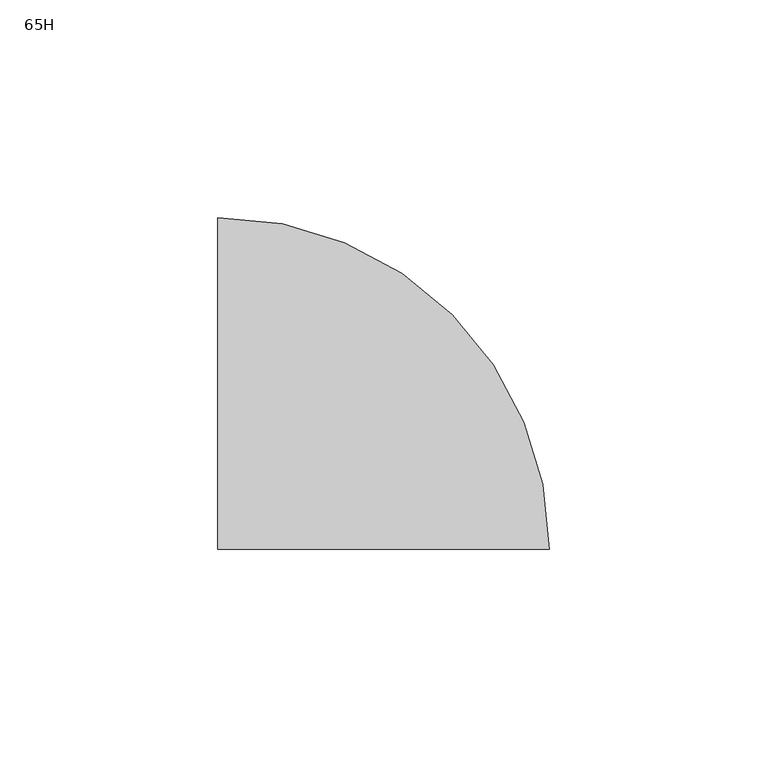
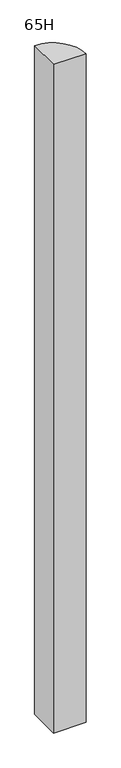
"""IFC4 building model written with IfcOpenShell, lengths in millimetres: furniture geometry, Steelcase - Montage - Junction - L Radius - Same-Height : 65H."""

from ifc_helpers import new_model, si_unit, point, frame, frame_2d, origin, place, context, project, spatial, polyline, circle_curve, trimmed, segment, composite_curve, outline, extrude, source, transform, mapped, element, save


def furniture_65h_a30b0fb3(model_context):
    return source(origin(), model_context, "Body", "SweptSolid", [
        extrude(outline(composite_curve([segment(trimmed(circle_curve(frame_2d((457.2, -38.1000006)), 76.2000006), [point((457.2, 38.1))], [point((533.4000006, -38.1000006))], False, "CARTESIAN"), True, "CONTINUOUS"), segment(polyline([(533.4000006, -38.1000006), (457.2, -38.1000006), (457.2, 38.1)]), True, "CONTINUOUS")], self_intersect=False)), frame((0.0, 0.0, 4.064), z_axis=(0.0, 0.0, 1.0), x_axis=(1.0, 0.0, 0.0)), (0.0, 0.0, 1.0), 1656.461),
    ])


if __name__ == "__main__":
    model = new_model("IFC4")
    model_context = context("Model", 3, world=origin())
    ifc_project = project(units=[si_unit("LENGTHUNIT", "METRE", prefix="MILLI")], contexts=[model_context])
    site = spatial("IfcSite", under=ifc_project)
    building = spatial("IfcBuilding", under=site)
    placement = place(None, origin())
    furniture_65h_shape = furniture_65h_a30b0fb3(model_context)
    element("IfcFurniture", 1, ObjectType="Steelcase - Montage - Junction - L Radius - Same-Height : 65H", at=placement, inside=building, context=model_context, shape_type="MappedRepresentation", body=[
        mapped(furniture_65h_shape, transform((0.0, 0.0, 0.0), x_axis=(1.0, 0.0, 0.0), y_axis=(0.0, 1.0, 0.0), z_axis=(0.0, 0.0, 1.0))),
    ])
    save(model, "model.ifc")
